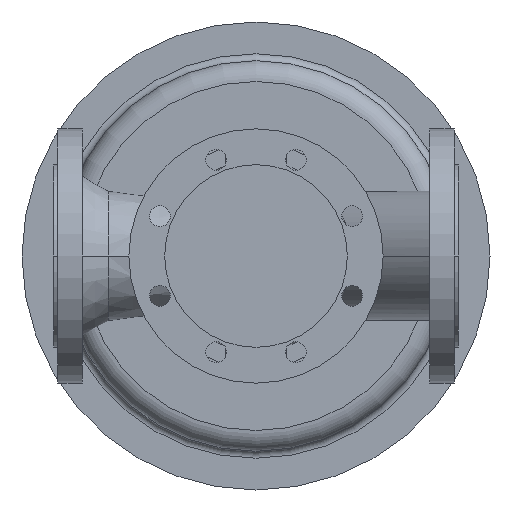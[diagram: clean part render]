
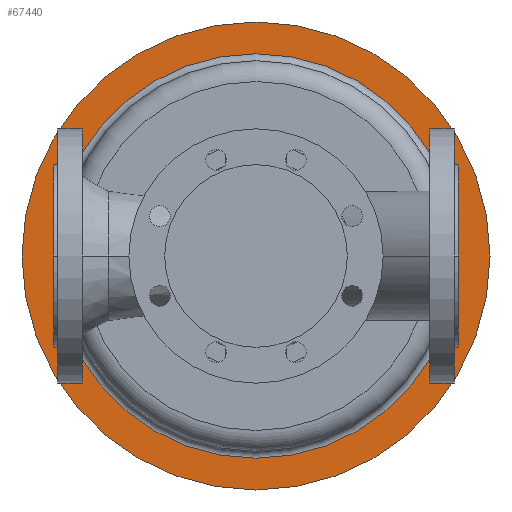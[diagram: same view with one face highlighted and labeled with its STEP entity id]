
A CAD part, front view. The second image highlights one B-rep face of the part: STEP entity #67440.
In plain terms, the highlighted planar face has unit normal (0, -1, 0).
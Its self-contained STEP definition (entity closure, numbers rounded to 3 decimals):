
#54790=CARTESIAN_POINT('',(-27.5,849.7,0.));
#54800=VERTEX_POINT('',#54790);
#54960=CARTESIAN_POINT('',(377.5,849.7,0.));
#54970=VERTEX_POINT('',#54960);
#55000=CARTESIAN_POINT('',(175.,849.7,0.));
#55010=DIRECTION('',(0.,1.,0.));
#55020=DIRECTION('',(1.,0.,0.));
#55030=AXIS2_PLACEMENT_3D('',#55000,#55010,#55020);
#55040=CIRCLE('',#55030,202.5);
#55050=EDGE_CURVE('',#54800,#54970,#55040,.T.);
#55150=CARTESIAN_POINT('',(175.,849.7,0.));
#55160=DIRECTION('',(0.,1.,0.));
#55170=DIRECTION('',(1.,0.,0.));
#55180=AXIS2_PLACEMENT_3D('',#55150,#55160,#55170);
#55190=CIRCLE('',#55180,175.);
#55200=CARTESIAN_POINT('',(175.,849.7,-175.));
#55210=VERTEX_POINT('',#55200);
#55220=CARTESIAN_POINT('',(0.,849.7,
0.));
#55230=VERTEX_POINT('',#55220);
#55240=EDGE_CURVE('',#55210,#55230,#55190,.T.);
#55490=CARTESIAN_POINT('',(350.,849.7,0.));
#55500=VERTEX_POINT('',#55490);
#55530=EDGE_CURVE('',#55500,#55210,#55190,.T.);
#67280=CARTESIAN_POINT('',(363.75,849.7,0.));
#67290=DIRECTION('',(0.,-1.,0.));
#67300=DIRECTION('',(-1.,0.,0.));
#67310=AXIS2_PLACEMENT_3D('',#67280,#67290,#67300);
#67320=PLANE('',#67310);
#67330=EDGE_CURVE('',#54970,#54800,#55040,.T.);
#67340=ORIENTED_EDGE('',*,*,#67330,.F.);
#67350=ORIENTED_EDGE('',*,*,#55050,.F.);
#67360=EDGE_LOOP('',(#67350,#67340));
#67370=FACE_OUTER_BOUND('',#67360,.T.);
#67380=EDGE_CURVE('',#55230,#55500,#55190,.T.);
#67390=ORIENTED_EDGE('',*,*,#67380,.T.);
#67400=ORIENTED_EDGE('',*,*,#55240,.T.);
#67410=ORIENTED_EDGE('',*,*,#55530,.T.);
#67420=EDGE_LOOP('',(#67410,#67400,#67390));
#67430=FACE_BOUND('',#67420,.T.);
#67440=ADVANCED_FACE('',(#67370,#67430),#67320,.T.);
